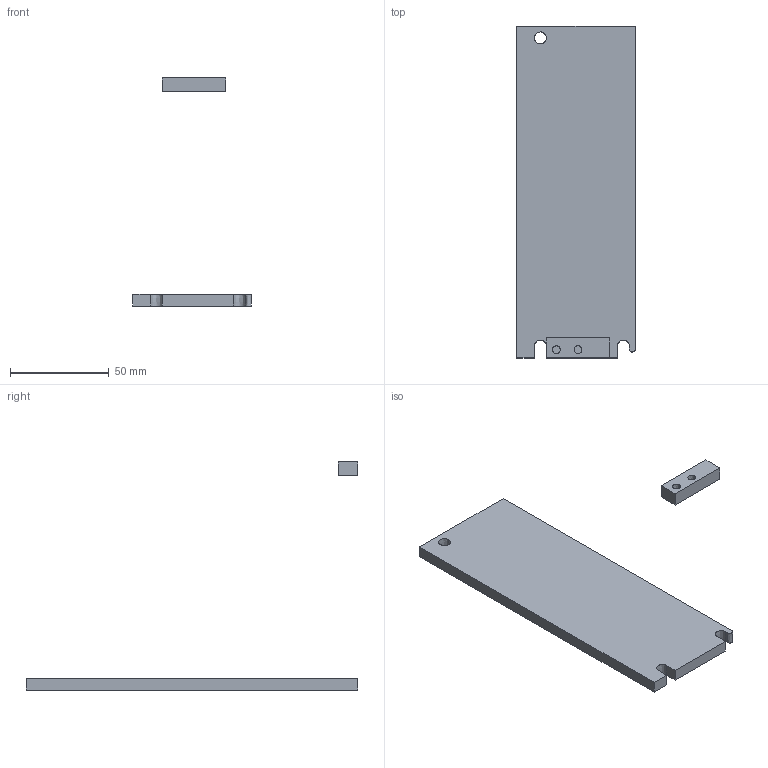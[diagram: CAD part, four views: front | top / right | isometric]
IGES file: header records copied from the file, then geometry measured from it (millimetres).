
Start section:  PTC IGES file: j4-60-100-chassis.igs
Global section: file name: j4-60-100-chassis.igs; native system: Pro/ENGINEER by Parametric Technology Corporation; preprocessor: 2010160; author: JE18792; organization: Unknown; date: 20121031.180052; units: millimetre
Bounding box: 60 x 168 x 115.5 mm (x, y, z)
Volume: 61713 mm3; surface area: 24227.1 mm2
Topology: 2 solids, 2 shells, 26 faces, 66 edges, 44 vertices
Faces by surface type: bspline 26
